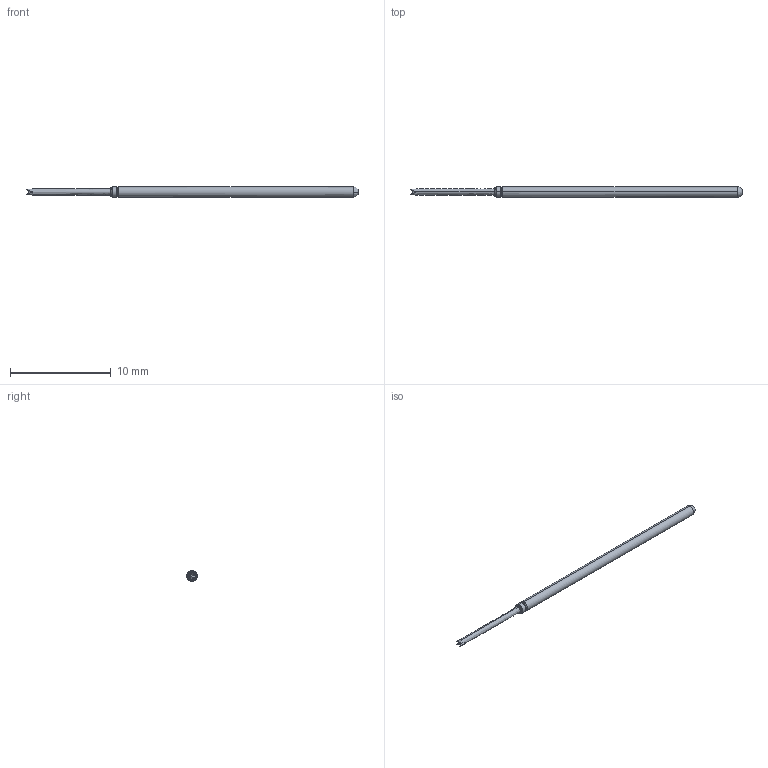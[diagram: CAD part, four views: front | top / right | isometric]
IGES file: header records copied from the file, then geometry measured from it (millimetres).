
Start section: SolidWorks IGES file using analytic representation for surfaces
Global section: file name: \\CODA-VM-SBS\RedirectedFolders\georged\My Documents\CODA FILES NEW\ATE TEST PROBES\LPA2 & ST-LPA2 SERIES\LPA2Q-030.IGS; native system: SolidWorks 2022; preprocessor: SolidWorks 2022; author: GeorgeD; date: 230605.120640; units: inch
Bounding box: 33.02 x 1.02 x 1.02 mm (x, y, z)
Surface area: 95.5 mm2 (no closed solid volume)
Topology: 0 solids, 0 shells, 26 faces, 170 edges, 170 vertices
Faces by surface type: bspline 26
